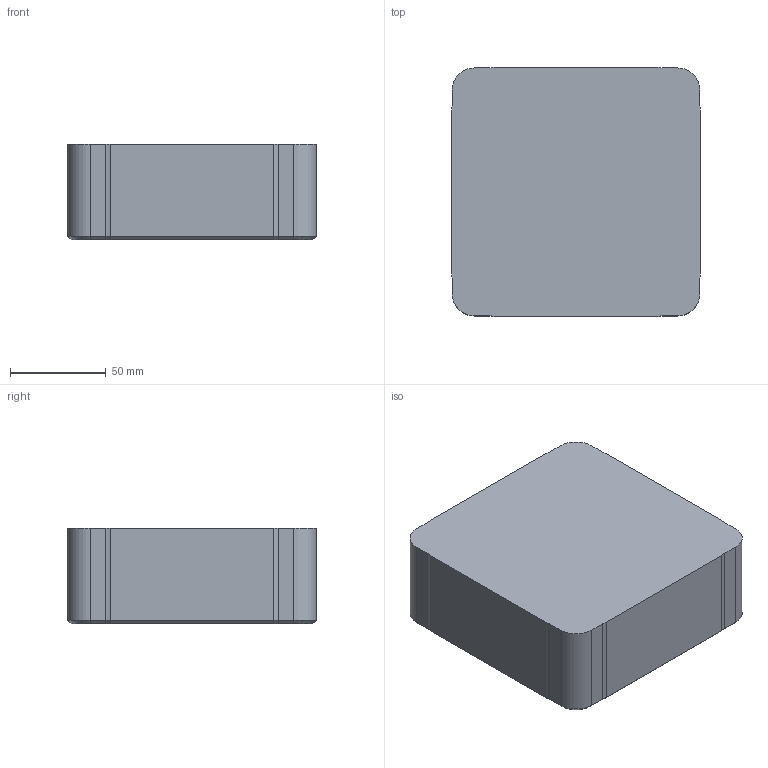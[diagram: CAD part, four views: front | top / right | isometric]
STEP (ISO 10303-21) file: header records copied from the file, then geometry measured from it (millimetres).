
FILE_DESCRIPTION (( 'STEP AP214' ), '1' );
FILE_NAME ('AS-Formeinsatz 130_130_50.STEP', '2024-02-23T09:53:05', ( '' ), ( '' ), 'SwSTEP 2.0', 'SolidWorks 2020', '' );
FILE_SCHEMA (( 'AUTOMOTIVE_DESIGN' ));
Length unit declared in the file: millimetre
Products named in the file (1): AS-Formeinsatz 130_130_50
Bounding box: 130 x 130 x 50 mm (x, y, z)
Volume: 829671.9 mm3; surface area: 59982 mm2
Topology: 1 solids, 1 shells, 62 faces, 148 edges, 88 vertices
Faces by surface type: plane 26, cone 20, cylinder 16
Full cylindrical faces by diameter (mm): 8.5 x4
Entity records: 1710 total; most frequent: CARTESIAN_POINT 303, DIRECTION 298, ORIENTED_EDGE 264, EDGE_CURVE 132, AXIS2_PLACEMENT_3D 111, VERTEX_POINT 84, VECTOR 76, LINE 76
